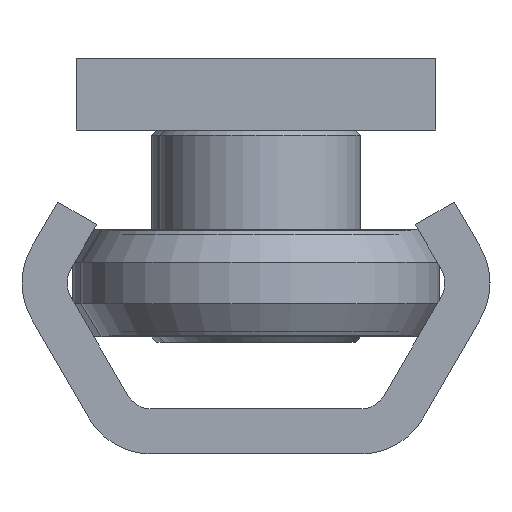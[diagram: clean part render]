
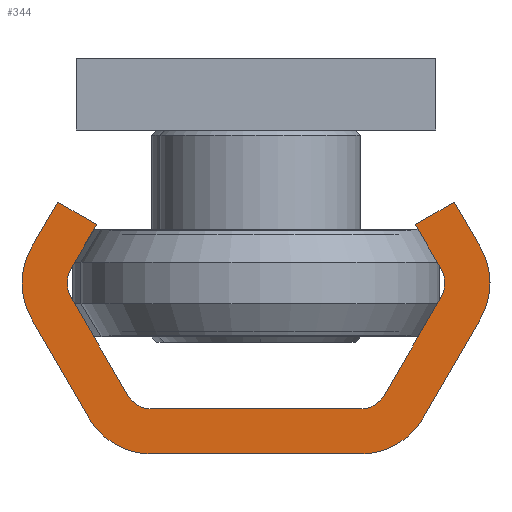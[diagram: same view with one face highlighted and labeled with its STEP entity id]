
A CAD part, left-side view. The second image highlights one B-rep face of the part: STEP entity #344.
In plain terms, the highlighted planar face has unit normal (-1, 0, 0).
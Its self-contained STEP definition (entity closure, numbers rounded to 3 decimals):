
#344 = ADVANCED_FACE( '', ( #747 ), #748, .F. );
#747 = FACE_OUTER_BOUND( '', #1389, .T. );
#748 = PLANE( '', #1390 );
#1389 = EDGE_LOOP( '', ( #2215, #2216, #2217, #2218, #2219, #2220, #2221, #2222, #2223, #2224, #2225, #2226, #2227, #2228, #2229, #2230, #2231, #2232, #2233, #2234 ) );
#1390 = AXIS2_PLACEMENT_3D( '', #2235, #2236, #2237 );
#2215 = ORIENTED_EDGE( '', *, *, #3363, .F. );
#2216 = ORIENTED_EDGE( '', *, *, #3364, .F. );
#2217 = ORIENTED_EDGE( '', *, *, #3365, .F. );
#2218 = ORIENTED_EDGE( '', *, *, #3366, .F. );
#2219 = ORIENTED_EDGE( '', *, *, #3367, .F. );
#2220 = ORIENTED_EDGE( '', *, *, #3368, .F. );
#2221 = ORIENTED_EDGE( '', *, *, #3369, .F. );
#2222 = ORIENTED_EDGE( '', *, *, #3370, .T. );
#2223 = ORIENTED_EDGE( '', *, *, #3371, .F. );
#2224 = ORIENTED_EDGE( '', *, *, #3372, .T. );
#2225 = ORIENTED_EDGE( '', *, *, #3373, .F. );
#2226 = ORIENTED_EDGE( '', *, *, #3374, .T. );
#2227 = ORIENTED_EDGE( '', *, *, #3375, .F. );
#2228 = ORIENTED_EDGE( '', *, *, #3320, .T. );
#2229 = ORIENTED_EDGE( '', *, *, #3307, .F. );
#2230 = ORIENTED_EDGE( '', *, *, #3376, .F. );
#2231 = ORIENTED_EDGE( '', *, *, #3344, .F. );
#2232 = ORIENTED_EDGE( '', *, *, #3377, .F. );
#2233 = ORIENTED_EDGE( '', *, *, #3378, .F. );
#2234 = ORIENTED_EDGE( '', *, *, #3379, .F. );
#2235 = CARTESIAN_POINT( '', ( 0., -5.825, -4. ) );
#2236 = DIRECTION( '', ( 1., 0., 0. ) );
#2237 = DIRECTION( '', ( 0., 0., -1. ) );
#3307 = EDGE_CURVE( '', #3764, #3765, #3766, .T. );
#3320 = EDGE_CURVE( '', #3787, #3765, #3788, .T. );
#3344 = EDGE_CURVE( '', #3826, #3827, #3828, .T. );
#3363 = EDGE_CURVE( '', #3857, #3858, #3859, .T. );
#3364 = EDGE_CURVE( '', #3860, #3857, #3861, .T. );
#3365 = EDGE_CURVE( '', #3862, #3860, #3863, .T. );
#3366 = EDGE_CURVE( '', #3864, #3862, #3865, .T. );
#3367 = EDGE_CURVE( '', #3866, #3864, #3867, .T. );
#3368 = EDGE_CURVE( '', #3868, #3866, #3869, .T. );
#3369 = EDGE_CURVE( '', #3870, #3868, #3871, .T. );
#3370 = EDGE_CURVE( '', #3870, #3872, #3873, .T. );
#3371 = EDGE_CURVE( '', #3874, #3872, #3875, .T. );
#3372 = EDGE_CURVE( '', #3874, #3876, #3877, .T. );
#3373 = EDGE_CURVE( '', #3878, #3876, #3879, .T. );
#3374 = EDGE_CURVE( '', #3878, #3880, #3881, .T. );
#3375 = EDGE_CURVE( '', #3787, #3880, #3882, .T. );
#3376 = EDGE_CURVE( '', #3827, #3764, #3883, .T. );
#3377 = EDGE_CURVE( '', #3884, #3826, #3885, .T. );
#3378 = EDGE_CURVE( '', #3886, #3884, #3887, .T. );
#3379 = EDGE_CURVE( '', #3858, #3886, #3888, .T. );
#3764 = VERTEX_POINT( '', #4432 );
#3765 = VERTEX_POINT( '', #4433 );
#3766 = LINE( '', #4434, #4435 );
#3787 = VERTEX_POINT( '', #4463 );
#3788 = CIRCLE( '', #4464, 1.5 );
#3826 = VERTEX_POINT( '', #4508 );
#3827 = VERTEX_POINT( '', #4509 );
#3828 = LINE( '', #4510, #4511 );
#3857 = VERTEX_POINT( '', #4549 );
#3858 = VERTEX_POINT( '', #4550 );
#3859 = LINE( '', #4551, #4552 );
#3860 = VERTEX_POINT( '', #4553 );
#3861 = CIRCLE( '', #4554, 4. );
#3862 = VERTEX_POINT( '', #4555 );
#3863 = LINE( '', #4556, #4557 );
#3864 = VERTEX_POINT( '', #4558 );
#3865 = CIRCLE( '', #4559, 4. );
#3866 = VERTEX_POINT( '', #4560 );
#3867 = LINE( '', #4561, #4562 );
#3868 = VERTEX_POINT( '', #4563 );
#3869 = LINE( '', #4564, #4565 );
#3870 = VERTEX_POINT( '', #4566 );
#3871 = LINE( '', #4567, #4568 );
#3872 = VERTEX_POINT( '', #4569 );
#3873 = CIRCLE( '', #4570, 1.5 );
#3874 = VERTEX_POINT( '', #4571 );
#3875 = LINE( '', #4572, #4573 );
#3876 = VERTEX_POINT( '', #4574 );
#3877 = CIRCLE( '', #4575, 1.5 );
#3878 = VERTEX_POINT( '', #4576 );
#3879 = LINE( '', #4577, #4578 );
#3880 = VERTEX_POINT( '', #4579 );
#3881 = CIRCLE( '', #4580, 1.5 );
#3882 = LINE( '', #4581, #4582 );
#3883 = LINE( '', #4583, #4584 );
#3884 = VERTEX_POINT( '', #4585 );
#3885 = CIRCLE( '', #4586, 4. );
#3886 = VERTEX_POINT( '', #4587 );
#3887 = LINE( '', #4588, #4589 );
#3888 = CIRCLE( '', #4590, 4. );
#4432 = CARTESIAN_POINT( '', ( 0., -8.856, -12.75 ) );
#4433 = CARTESIAN_POINT( '', ( 0., -10.299, -10.25 ) );
#4434 = CARTESIAN_POINT( '', ( 0., -8.856, -12.75 ) );
#4435 = VECTOR( '', #5209, 1000. );
#4463 = CARTESIAN_POINT( '', ( 0., -10.299, -8.75 ) );
#4464 = AXIS2_PLACEMENT_3D( '', #5223, #5224, #5225 );
#4508 = CARTESIAN_POINT( '', ( 0., -12.464, -11.5 ) );
#4509 = CARTESIAN_POINT( '', ( 0., -11.021, -14. ) );
#4510 = CARTESIAN_POINT( '', ( 0., -12.464, -11.5 ) );
#4511 = VECTOR( '', #5262, 1000. );
#4549 = CARTESIAN_POINT( '', ( 0., 5.825, 0. ) );
#4550 = CARTESIAN_POINT( '', ( 0., -5.825, 0. ) );
#4551 = CARTESIAN_POINT( '', ( 0., 5.825, 0. ) );
#4552 = VECTOR( '', #5284, 1000. );
#4553 = CARTESIAN_POINT( '', ( 0., 9.289, -2. ) );
#4554 = AXIS2_PLACEMENT_3D( '', #5285, #5286, #5287 );
#4555 = CARTESIAN_POINT( '', ( 0., 12.464, -7.5 ) );
#4556 = CARTESIAN_POINT( '', ( 0., 12.464, -7.5 ) );
#4557 = VECTOR( '', #5288, 1000. );
#4558 = CARTESIAN_POINT( '', ( 0., 12.464, -11.5 ) );
#4559 = AXIS2_PLACEMENT_3D( '', #5289, #5290, #5291 );
#4560 = CARTESIAN_POINT( '', ( 0., 11.021, -14. ) );
#4561 = CARTESIAN_POINT( '', ( 0., 11.021, -14. ) );
#4562 = VECTOR( '', #5292, 1000. );
#4563 = CARTESIAN_POINT( '', ( 0., 8.856, -12.75 ) );
#4564 = CARTESIAN_POINT( '', ( 0., 8.856, -12.75 ) );
#4565 = VECTOR( '', #5293, 1000. );
#4566 = CARTESIAN_POINT( '', ( 0., 10.299, -10.25 ) );
#4567 = CARTESIAN_POINT( '', ( 0., 10.299, -10.25 ) );
#4568 = VECTOR( '', #5294, 1000. );
#4569 = CARTESIAN_POINT( '', ( 0., 10.299, -8.75 ) );
#4570 = AXIS2_PLACEMENT_3D( '', #5295, #5296, #5297 );
#4571 = CARTESIAN_POINT( '', ( 0., 7.124, -3.25 ) );
#4572 = CARTESIAN_POINT( '', ( 0., 7.124, -3.25 ) );
#4573 = VECTOR( '', #5298, 1000. );
#4574 = CARTESIAN_POINT( '', ( 0., 5.825, -2.5 ) );
#4575 = AXIS2_PLACEMENT_3D( '', #5299, #5300, #5301 );
#4576 = CARTESIAN_POINT( '', ( 0., -5.825, -2.5 ) );
#4577 = CARTESIAN_POINT( '', ( 0., -5.825, -2.5 ) );
#4578 = VECTOR( '', #5302, 1000. );
#4579 = CARTESIAN_POINT( '', ( 0., -7.124, -3.25 ) );
#4580 = AXIS2_PLACEMENT_3D( '', #5303, #5304, #5305 );
#4581 = CARTESIAN_POINT( '', ( 0., -10.299, -8.75 ) );
#4582 = VECTOR( '', #5306, 1000. );
#4583 = CARTESIAN_POINT( '', ( 0., -11.021, -14. ) );
#4584 = VECTOR( '', #5307, 1000. );
#4585 = CARTESIAN_POINT( '', ( 0., -12.464, -7.5 ) );
#4586 = AXIS2_PLACEMENT_3D( '', #5308, #5309, #5310 );
#4587 = CARTESIAN_POINT( '', ( 0., -9.289, -2. ) );
#4588 = CARTESIAN_POINT( '', ( 0., -9.289, -2. ) );
#4589 = VECTOR( '', #5311, 1000. );
#4590 = AXIS2_PLACEMENT_3D( '', #5312, #5313, #5314 );
#5209 = DIRECTION( '', ( 0., -0.5, 0.866 ) );
#5223 = CARTESIAN_POINT( '', ( 0., -9., -9.5 ) );
#5224 = DIRECTION( '', ( 1., 0., 0. ) );
#5225 = DIRECTION( '', ( 0., 0., -1. ) );
#5262 = DIRECTION( '', ( 0., 0.5, -0.866 ) );
#5284 = DIRECTION( '', ( 0., -1., 0. ) );
#5285 = CARTESIAN_POINT( '', ( 0., 5.825, -4. ) );
#5286 = DIRECTION( '', ( 1., 0., 0. ) );
#5287 = DIRECTION( '', ( 0., 0., -1. ) );
#5288 = DIRECTION( '', ( 0., -0.5, 0.866 ) );
#5289 = CARTESIAN_POINT( '', ( 0., 9., -9.5 ) );
#5290 = DIRECTION( '', ( 1., 0., 0. ) );
#5291 = DIRECTION( '', ( 0., 0., -1. ) );
#5292 = DIRECTION( '', ( 0., 0.5, 0.866 ) );
#5293 = DIRECTION( '', ( 0., 0.866, -0.5 ) );
#5294 = DIRECTION( '', ( 0., -0.5, -0.866 ) );
#5295 = CARTESIAN_POINT( '', ( 0., 9., -9.5 ) );
#5296 = DIRECTION( '', ( 1., 0., 0. ) );
#5297 = DIRECTION( '', ( 0., 0., -1. ) );
#5298 = DIRECTION( '', ( 0., 0.5, -0.866 ) );
#5299 = CARTESIAN_POINT( '', ( 0., 5.825, -4. ) );
#5300 = DIRECTION( '', ( 1., 0., 0. ) );
#5301 = DIRECTION( '', ( 0., 0., -1. ) );
#5302 = DIRECTION( '', ( 0., 1., 0. ) );
#5303 = CARTESIAN_POINT( '', ( 0., -5.825, -4. ) );
#5304 = DIRECTION( '', ( 1., 0., 0. ) );
#5305 = DIRECTION( '', ( 0., 0., -1. ) );
#5306 = DIRECTION( '', ( 0., 0.5, 0.866 ) );
#5307 = DIRECTION( '', ( 0., 0.866, 0.5 ) );
#5308 = CARTESIAN_POINT( '', ( 0., -9., -9.5 ) );
#5309 = DIRECTION( '', ( 1., 0., 0. ) );
#5310 = DIRECTION( '', ( 0., 0., -1. ) );
#5311 = DIRECTION( '', ( 0., -0.5, -0.866 ) );
#5312 = CARTESIAN_POINT( '', ( 0., -5.825, -4. ) );
#5313 = DIRECTION( '', ( 1., 0., 0. ) );
#5314 = DIRECTION( '', ( 0., 0., -1. ) );
